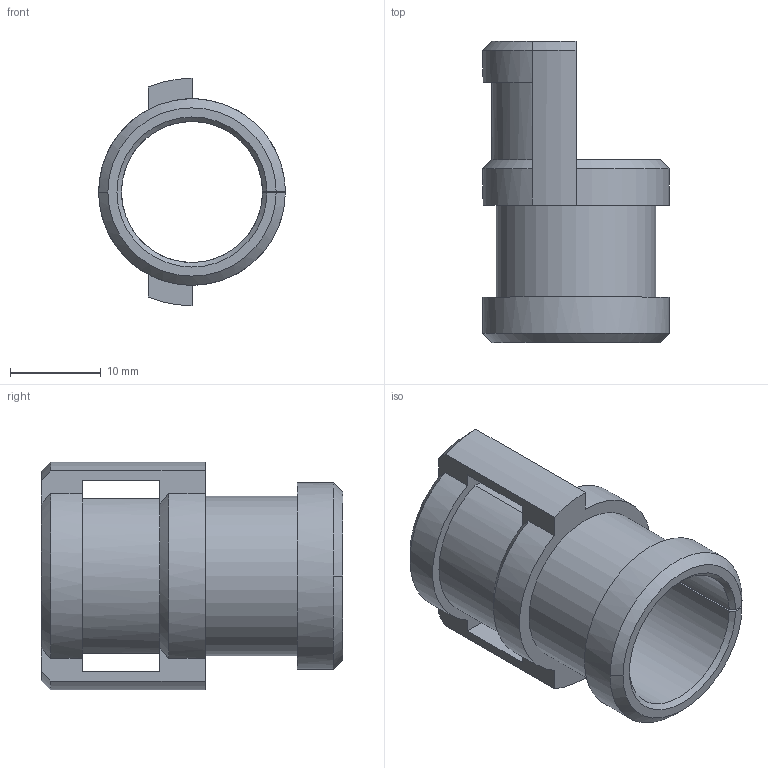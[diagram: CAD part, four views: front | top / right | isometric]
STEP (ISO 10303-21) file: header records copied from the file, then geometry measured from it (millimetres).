
FILE_DESCRIPTION (( 'STEP AP203' ), '1' );
FILE_NAME ('kdt-z14.STEP', '2023-03-03T07:56:07', ( '' ), ( '' ), 'SwSTEP 2.0', 'SolidWorks 2016', '' );
FILE_SCHEMA (( 'CONFIG_CONTROL_DESIGN' ));
Length unit declared in the file: millimetre
Products named in the file (1): kdt-z14
Bounding box: 20.5 x 33.1 x 25 mm (x, y, z)
Volume: 2822 mm3; surface area: 3753.1 mm2
Topology: 1 solids, 1 shells, 40 faces, 124 edges, 82 vertices
Faces by surface type: plane 17, cone 12, cylinder 11
Entity records: 1746 total; most frequent: CARTESIAN_POINT 579, ORIENTED_EDGE 248, DIRECTION 209, EDGE_CURVE 124, VERTEX_POINT 82, AXIS2_PLACEMENT_3D 70, VECTOR 69, LINE 69
